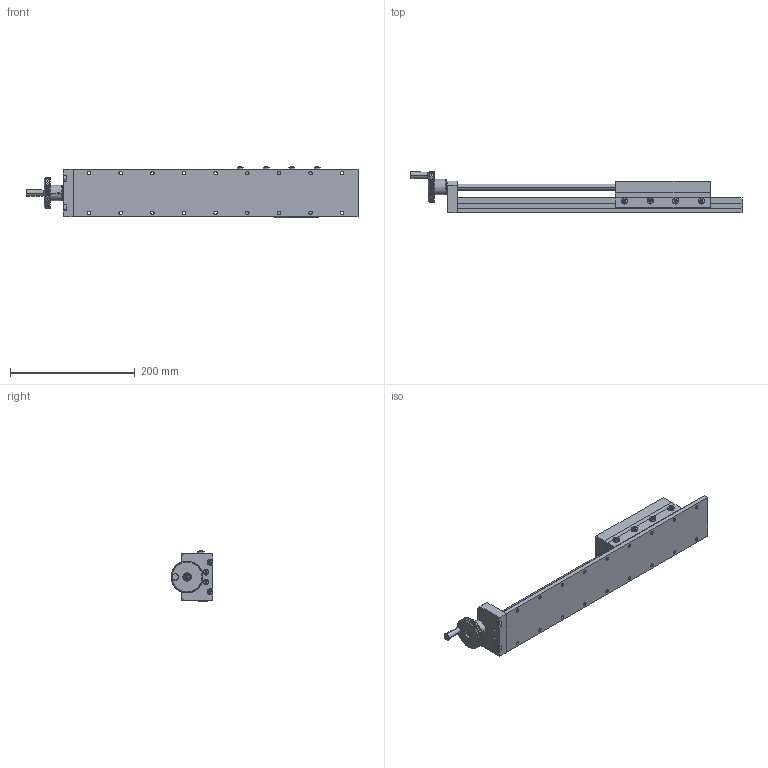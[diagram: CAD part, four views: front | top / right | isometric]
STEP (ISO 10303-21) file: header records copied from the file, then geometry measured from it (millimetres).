
FILE_DESCRIPTION (( 'STEP AP214' ), '1' );
FILE_NAME ('SW03-SL06-BL18-LS.STEP', '2011-11-04T18:50:09', ( '' ), ( '' ), 'SwSTEP 2.0', 'SolidWorks 2011', '' );
FILE_SCHEMA (( 'AUTOMOTIVE_DESIGN' ));
Length unit declared in the file: inch
Products named in the file (25): spring pin slotted_ai_SPS 0.125x1; 64425K71; 6121K94; 7806K62; Gen2 End Plate_03 EPLATE; socket head cap screw_ai_HX-SHCS 0.19-32x0.5x0.5-N; EW-10; Lead Screw_3_8-12 x 12.75 Lg; spring pin slotted_ai_SPS 0.125x0.75; Lead Nut_3_8-12; socket head cap screw_ai_HX-SHCS 0.19-32x0.75x0.75-N; Gen2 Nut Plate_03x06 NPLATE; Gen2 SLIDE_SW03-SL06-BL18; Gen2 SADDLE_03x06 SADDLE; machine screw nut hex_ai_MSHXNUT 0.190-32-D-N; socket set screw cup point_ai_SSCUPSKT 0.19-32x0.75-HX-N; Tag; Gen2 Bar_03x06 BAR; Gen2 Adj Gib_03x06 ADJ GIB; Gen2 Gib_03x06 GIB; Gen2 Top plate_03x06 TPLATE; Gen2 BASE_03x18 BASE; Gen2 Hardplate_03x18 HPLATE; Gen2 Baseplate_03x18 BASE; SW03-SL06-BL18-LS
Assembly tree (40 placements, depth 4):
  SW03-SL06-BL18-LS
    socket head cap screw_ai_HX-SHCS 0.19-32x0.75x0.75-N  x8
    spring pin slotted_ai_SPS 0.125x1
    7806K62  x2
    spring pin slotted_ai_SPS 0.125x0.75
    Lead Nut_3_8-12
    socket head cap screw_ai_HX-SHCS 0.19-32x0.5x0.5-N  x2
    Lead Screw_3_8-12 x 12.75 Lg
    EW-10  x2
    6121K94
    Gen2 Nut Plate_03x06 NPLATE
    64425K71
    Gen2 SLIDE_SW03-SL06-BL18
      Gen2 SADDLE_03x06 SADDLE
        Gen2 Top plate_03x06 TPLATE
        Gen2 Adj Gib_03x06 ADJ GIB
        socket set screw cup point_ai_SSCUPSKT 0.19-32x0.75-HX-N  x4
        machine screw nut hex_ai_MSHXNUT 0.190-32-D-N  x4
        Gen2 Gib_03x06 GIB
        Tag
        Gen2 Bar_03x06 BAR
      Gen2 BASE_03x18 BASE
        Gen2 Baseplate_03x18 BASE
        Gen2 Hardplate_03x18 HPLATE
    Gen2 End Plate_03 EPLATE
Bounding box: 533.05 x 66.67 x 83.45 mm (x, y, z)
Volume: 1035099 mm3; surface area: 311878.6 mm2
Topology: 58 solids, 58 shells, 2527 faces, 6479 edges, 4175 vertices
Faces by surface type: plane 1727, cylinder 479, cone 191, torus 72, sphere 48, bspline 10
Entity records: 69209 total; most frequent: CARTESIAN_POINT 21847, ORIENTED_EDGE 10866, DIRECTION 8266, EDGE_CURVE 5433, VERTEX_POINT 3582, AXIS2_PLACEMENT_3D 3137, EDGE_LOOP 2405, FACE_OUTER_BOUND 2107
